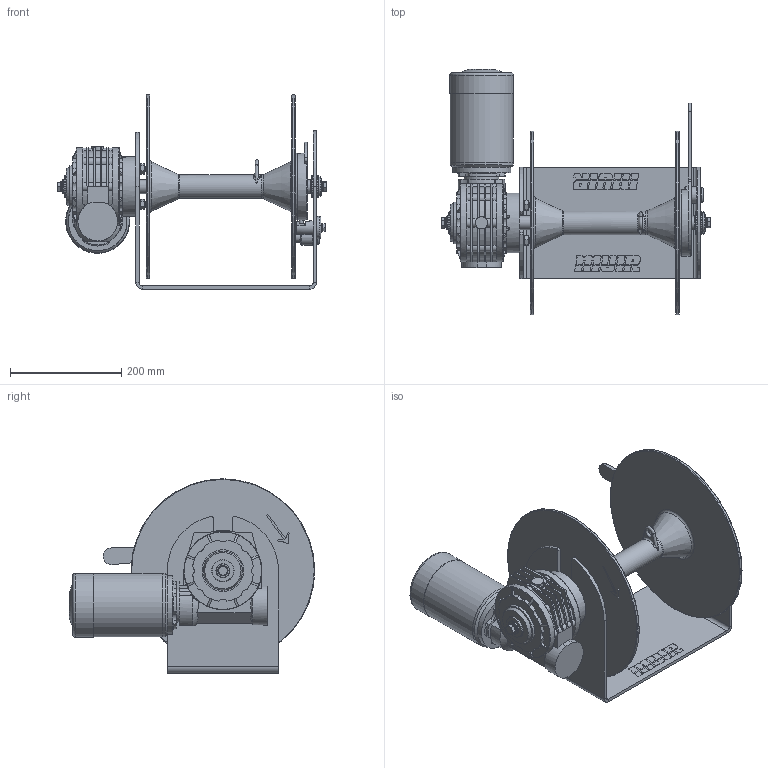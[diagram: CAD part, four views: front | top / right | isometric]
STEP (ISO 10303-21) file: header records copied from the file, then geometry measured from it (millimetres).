
FILE_DESCRIPTION(/* description */ (''),/* implementation_level */ '2;1');
FILE_NAME(/* name */ 'DFF12.stp',/* time_stamp */ '2025-12-08T09:08:38+11:00',/* author */ ('markus.mendgen'),/* organization */ (''),/* preprocessor_version */ 'ST-DEVELOPER v20',/* originating_system */ 'Autodesk Inventor 2025',/* authorisation */ '');
FILE_SCHEMA (('AUTOMOTIVE_DESIGN { 1 0 10303 214 3 1 1 }'));
Length unit declared in the file: millimetre
Products named in the file (1): DFF12
Bounding box: 484.5 x 441 x 349.21 mm (x, y, z)
Volume: 6768367.1 mm3; surface area: 970007.5 mm2
Topology: 1 solids, 2 shells, 1101 faces, 2951 edges, 1916 vertices
Faces by surface type: plane 531, cylinder 415, cone 91, torus 55, bspline 8, sphere 1
Full cylindrical faces by diameter (mm): 8 x2, 10 x10, 11.63 x1, 16 x1, 16.2 x1, 18 x2, 20 x1, 20.1 x1, 20.4 x1, 20.8 x1, 22 x1, 24 x2, 24.55 x1, 24.98 x2, 25 x3, 27.2 x1, 30 x2, 32.2 x1, 35 x1, 37 x1, 39.5 x1, 40 x3, 42.5 x1, 62 x2, 75 x2, 75.2 x1, 105.5 x1, 107 x1, 113.5 x1, 114 x1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
Entity records: 35636 total; most frequent: CARTESIAN_POINT 7335, DIRECTION 6262, ORIENTED_EDGE 5890, EDGE_CURVE 2947, AXIS2_PLACEMENT_3D 2469, VERTEX_POINT 1916, CIRCLE 1329, LINE 1324
